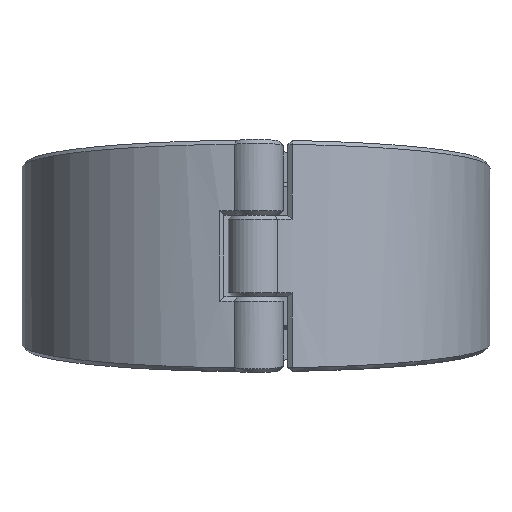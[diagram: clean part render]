
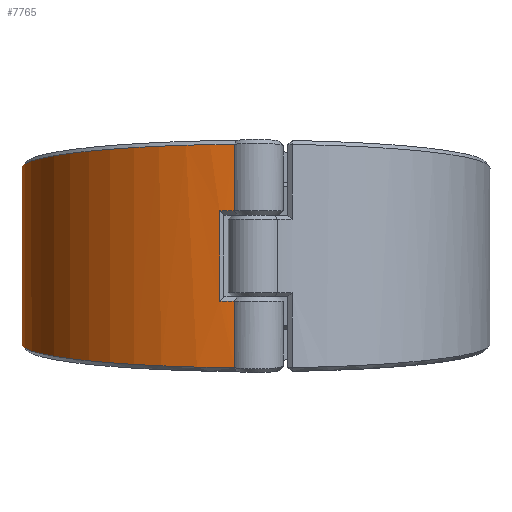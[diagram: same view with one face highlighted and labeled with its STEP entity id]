
A CAD part, front view. The second image highlights one B-rep face of the part: STEP entity #7765.
In plain terms, the highlighted cylindrical face has radius 110 mm (diameter 220 mm), a partial arc.
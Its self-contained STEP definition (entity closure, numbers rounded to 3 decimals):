
#263=CYLINDRICAL_SURFACE('',#8320,110.);
#584=FACE_OUTER_BOUND('',#1104,.T.);
#1104=EDGE_LOOP('',(#5280,#5281,#5282,#5283,#5284,#5285,#5286,#5287,#5288,
#5289,#5290,#5291));
#1644=B_SPLINE_CURVE_WITH_KNOTS('',3,(#11843,#11844,#11845,#11846),
 .UNSPECIFIED.,.F.,.F.,(4,4),(-0.001,0.),.UNSPECIFIED.);
#1645=B_SPLINE_CURVE_WITH_KNOTS('',3,(#11848,#11849,#11850,#11851),
 .UNSPECIFIED.,.F.,.F.,(4,4),(-3.049,-3.049),
 .UNSPECIFIED.);
#1646=B_SPLINE_CURVE_WITH_KNOTS('',3,(#11853,#11854,#11855,#11856,#11857,
#11858,#11859,#11860,#11861,#11862),.UNSPECIFIED.,.F.,.F.,(4,1,1,1,1,1,
1,4),(0.317,0.656,1.056,1.457,
1.857,2.257,2.657,3.049),
 .UNSPECIFIED.);
#1647=B_SPLINE_CURVE_WITH_KNOTS('',3,(#11866,#11867,#11868,#11869,#11870,
#11871,#11872,#11873,#11874,#11875),.UNSPECIFIED.,.F.,.F.,(4,1,1,1,1,1,
1,4),(-3.049,-2.657,-2.257,-1.857,
-1.457,-1.056,-0.656,-0.317),
 .UNSPECIFIED.);
#1648=B_SPLINE_CURVE_WITH_KNOTS('',3,(#11877,#11878,#11879,#11880),
 .UNSPECIFIED.,.F.,.F.,(4,4),(3.049,3.049),
 .UNSPECIFIED.);
#1649=B_SPLINE_CURVE_WITH_KNOTS('',3,(#11882,#11883,#11884,#11885),
 .UNSPECIFIED.,.F.,.F.,(4,4),(-0.361,-0.36),
 .UNSPECIFIED.);
#1921=LINE('',#11777,#2291);
#1927=LINE('',#11841,#2297);
#1928=LINE('',#11864,#2298);
#1929=LINE('',#11886,#2299);
#2291=VECTOR('',#9336,10.);
#2297=VECTOR('',#9382,10.);
#2298=VECTOR('',#9383,10.);
#2299=VECTOR('',#9384,10.);
#2666=CIRCLE('',#8310,110.);
#2669=CIRCLE('',#8315,110.);
#3229=VERTEX_POINT('',#11771);
#3230=VERTEX_POINT('',#11776);
#3236=VERTEX_POINT('',#11797);
#3239=VERTEX_POINT('',#11818);
#3243=VERTEX_POINT('',#11840);
#3244=VERTEX_POINT('',#11842);
#3245=VERTEX_POINT('',#11847);
#3246=VERTEX_POINT('',#11852);
#3247=VERTEX_POINT('',#11863);
#3248=VERTEX_POINT('',#11865);
#3249=VERTEX_POINT('',#11876);
#3250=VERTEX_POINT('',#11881);
#3984=EDGE_CURVE('',#3229,#3230,#1921,.T.);
#3997=EDGE_CURVE('',#3236,#3229,#2666,.T.);
#4002=EDGE_CURVE('',#3230,#3239,#2669,.T.);
#4008=EDGE_CURVE('',#3243,#3236,#1927,.T.);
#4009=EDGE_CURVE('',#3244,#3243,#1644,.T.);
#4010=EDGE_CURVE('',#3244,#3245,#1645,.T.);
#4011=EDGE_CURVE('',#3246,#3245,#1646,.T.);
#4012=EDGE_CURVE('',#3247,#3246,#1928,.T.);
#4013=EDGE_CURVE('',#3248,#3247,#1647,.T.);
#4014=EDGE_CURVE('',#3248,#3249,#1648,.T.);
#4015=EDGE_CURVE('',#3250,#3249,#1649,.T.);
#4016=EDGE_CURVE('',#3239,#3250,#1929,.T.);
#5280=ORIENTED_EDGE('',*,*,#4002,.F.);
#5281=ORIENTED_EDGE('',*,*,#3984,.F.);
#5282=ORIENTED_EDGE('',*,*,#3997,.F.);
#5283=ORIENTED_EDGE('',*,*,#4008,.F.);
#5284=ORIENTED_EDGE('',*,*,#4009,.F.);
#5285=ORIENTED_EDGE('',*,*,#4010,.T.);
#5286=ORIENTED_EDGE('',*,*,#4011,.F.);
#5287=ORIENTED_EDGE('',*,*,#4012,.F.);
#5288=ORIENTED_EDGE('',*,*,#4013,.F.);
#5289=ORIENTED_EDGE('',*,*,#4014,.T.);
#5290=ORIENTED_EDGE('',*,*,#4015,.F.);
#5291=ORIENTED_EDGE('',*,*,#4016,.F.);
#7765=ADVANCED_FACE('',(#584),#263,.T.);
#8310=AXIS2_PLACEMENT_3D('',#11813,#9358,#9359);
#8315=AXIS2_PLACEMENT_3D('',#11827,#9368,#9369);
#8320=AXIS2_PLACEMENT_3D('',#11839,#9380,#9381);
#9336=DIRECTION('',(0.,0.,-1.));
#9358=DIRECTION('center_axis',(0.,0.,-1.));
#9359=DIRECTION('ref_axis',(0.312,-0.95,0.));
#9368=DIRECTION('center_axis',(0.,0.,1.));
#9369=DIRECTION('ref_axis',(0.312,-0.95,0.));
#9380=DIRECTION('center_axis',(0.,0.,1.));
#9381=DIRECTION('ref_axis',(-0.312,0.95,0.));
#9382=DIRECTION('',(0.,0.,-1.));
#9383=DIRECTION('',(0.,0.,1.));
#9384=DIRECTION('',(0.,0.,-1.));
#11771=CARTESIAN_POINT('',(-17.029,-108.674,21.25));
#11776=CARTESIAN_POINT('',(-17.029,-108.674,-21.25));
#11777=CARTESIAN_POINT('',(-17.029,-108.674,0.));
#11797=CARTESIAN_POINT('',(-10.117,-109.534,21.25));
#11813=CARTESIAN_POINT('Origin',(0.,0.,21.25));
#11818=CARTESIAN_POINT('',(-10.117,-109.534,-21.25));
#11827=CARTESIAN_POINT('Origin',(0.,0.,-21.25));
#11839=CARTESIAN_POINT('Origin',(0.,0.,0.));
#11840=CARTESIAN_POINT('',(-10.117,-109.534,52.505));
#11841=CARTESIAN_POINT('',(-10.117,-109.534,0.));
#11842=CARTESIAN_POINT('',(-10.109,-109.535,52.511));
#11843=CARTESIAN_POINT('Ctrl Pts',(-10.109,-109.535,
52.511));
#11844=CARTESIAN_POINT('Ctrl Pts',(-10.111,-109.534,52.509));
#11845=CARTESIAN_POINT('Ctrl Pts',(-10.114,-109.534,
52.507));
#11846=CARTESIAN_POINT('Ctrl Pts',(-10.117,-109.534,
52.505));
#11847=CARTESIAN_POINT('',(-10.117,-109.534,52.511));
#11848=CARTESIAN_POINT('Ctrl Pts',(-10.109,-109.534,
52.511));
#11849=CARTESIAN_POINT('Ctrl Pts',(-10.111,-109.534,52.511));
#11850=CARTESIAN_POINT('Ctrl Pts',(-10.114,-109.534,
52.511));
#11851=CARTESIAN_POINT('Ctrl Pts',(-10.117,-109.534,52.511));
#11852=CARTESIAN_POINT('',(-34.347,104.5,30.999));
#11853=CARTESIAN_POINT('Ctrl Pts',(-34.347,104.498,30.999));
#11854=CARTESIAN_POINT('Ctrl Pts',(-46.173,100.605,31.39));
#11855=CARTESIAN_POINT('Ctrl Pts',(-70.517,87.723,32.682));
#11856=CARTESIAN_POINT('Ctrl Pts',(-98.454,55.447,35.922));
#11857=CARTESIAN_POINT('Ctrl Pts',(-112.265,12.669,40.219));
#11858=CARTESIAN_POINT('Ctrl Pts',(-108.335,-32.075,
44.716));
#11859=CARTESIAN_POINT('Ctrl Pts',(-87.288,-71.722,
48.705));
#11860=CARTESIAN_POINT('Ctrl Pts',(-52.736,-99.833,
51.534));
#11861=CARTESIAN_POINT('Ctrl Pts',(-24.398,-108.213,
52.378));
#11862=CARTESIAN_POINT('Ctrl Pts',(-10.117,-109.534,
52.511));
#11863=CARTESIAN_POINT('',(-34.347,104.5,-30.999));
#11864=CARTESIAN_POINT('',(-34.347,104.5,0.));
#11865=CARTESIAN_POINT('',(-10.117,-109.534,-52.511));
#11866=CARTESIAN_POINT('Ctrl Pts',(-10.117,-109.534,-52.511));
#11867=CARTESIAN_POINT('Ctrl Pts',(-24.398,-108.213,
-52.378));
#11868=CARTESIAN_POINT('Ctrl Pts',(-52.735,-99.833,
-51.534));
#11869=CARTESIAN_POINT('Ctrl Pts',(-87.293,-71.725,-48.705));
#11870=CARTESIAN_POINT('Ctrl Pts',(-108.324,-32.073,
-44.716));
#11871=CARTESIAN_POINT('Ctrl Pts',(-112.276,12.671,-40.219));
#11872=CARTESIAN_POINT('Ctrl Pts',(-98.443,55.442,-35.923));
#11873=CARTESIAN_POINT('Ctrl Pts',(-70.523,87.727,-32.682));
#11874=CARTESIAN_POINT('Ctrl Pts',(-46.173,100.606,-31.39));
#11875=CARTESIAN_POINT('Ctrl Pts',(-34.347,104.498,-30.999));
#11876=CARTESIAN_POINT('',(-10.109,-109.535,-52.511));
#11877=CARTESIAN_POINT('Ctrl Pts',(-10.117,-109.534,
-52.511));
#11878=CARTESIAN_POINT('Ctrl Pts',(-10.114,-109.534,
-52.511));
#11879=CARTESIAN_POINT('Ctrl Pts',(-10.111,-109.534,
-52.511));
#11880=CARTESIAN_POINT('Ctrl Pts',(-10.109,-109.534,-52.511));
#11881=CARTESIAN_POINT('',(-10.117,-109.534,-52.505));
#11882=CARTESIAN_POINT('Ctrl Pts',(-10.117,-109.533,
-52.505));
#11883=CARTESIAN_POINT('Ctrl Pts',(-10.114,-109.534,
-52.507));
#11884=CARTESIAN_POINT('Ctrl Pts',(-10.111,-109.534,
-52.509));
#11885=CARTESIAN_POINT('Ctrl Pts',(-10.108,-109.534,-52.511));
#11886=CARTESIAN_POINT('',(-10.117,-109.534,0.));
